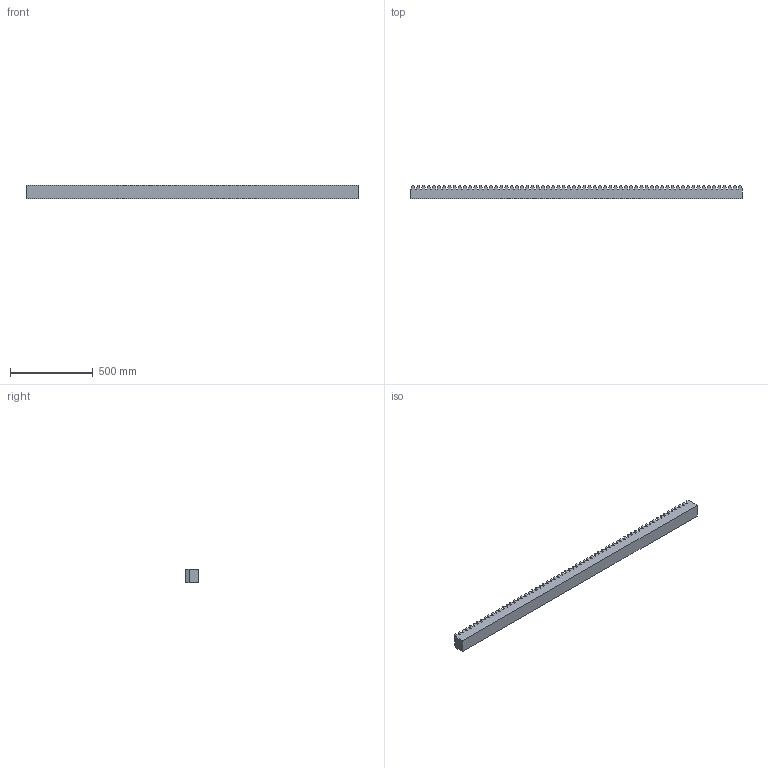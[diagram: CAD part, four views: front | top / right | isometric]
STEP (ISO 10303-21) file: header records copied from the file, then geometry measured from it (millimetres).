
FILE_DESCRIPTION(/* description */ (''),/* implementation_level */ '2;1');
FILE_NAME(/* name */ 'C:\Users\stagistaCAD\Desktop\30999200.stp',/* time_stamp */ '2018-06-14T16:28:20+02:00',/* author */ ('stagistacad'),/* organization */ (''),/* preprocessor_version */ 'ST-DEVELOPER v15.6',/* originating_system */ 'Autodesk Inventor 2015',/* authorisation */ '');
FILE_SCHEMA (('AUTOMOTIVE_DESIGN { 1 0 10303 214 3 1 1 }'));
Length unit declared in the file: millimetre
Products named in the file (1): 30999200
Bounding box: 2009.7 x 79.99 x 80 mm (x, y, z)
Volume: 11156441.2 mm3; surface area: 771045.2 mm2
Topology: 1 solids, 1 shells, 261 faces, 777 edges, 518 vertices
Faces by surface type: plane 261
Entity records: 8595 total; most frequent: CARTESIAN_POINT 1557, ORIENTED_EDGE 1554, DIRECTION 1301, LINE 777, VECTOR 777, EDGE_CURVE 777, VERTEX_POINT 518, AXIS2_PLACEMENT_3D 262
